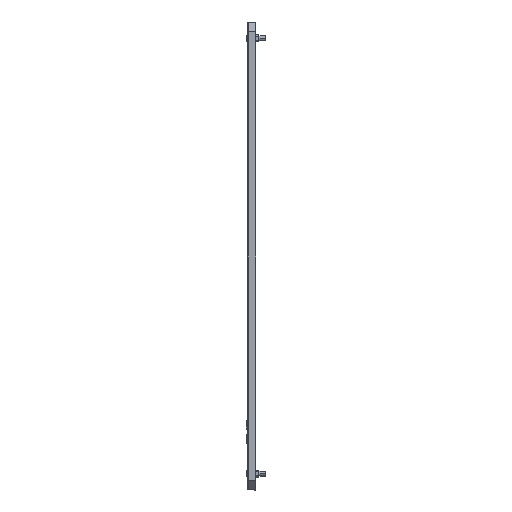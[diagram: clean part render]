
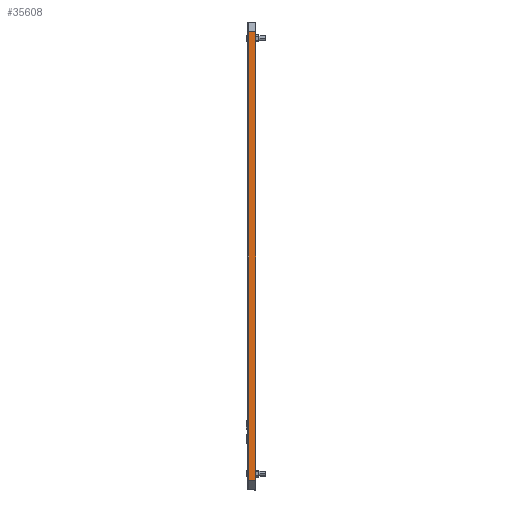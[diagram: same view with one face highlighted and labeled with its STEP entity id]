
A CAD part, left-side view. The second image highlights one B-rep face of the part: STEP entity #35608.
In plain terms, the highlighted planar face has unit normal (-1, 0, 0).
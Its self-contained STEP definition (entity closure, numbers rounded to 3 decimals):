
#3227 = VERTEX_POINT ( 'NONE', #29887 ) ;
#3229 = VERTEX_POINT ( 'NONE', #29889 ) ;
#3232 = VERTEX_POINT ( 'NONE', #29892 ) ;
#3234 = VERTEX_POINT ( 'NONE', #29894 ) ;
#5572 = EDGE_LOOP ( 'NONE', ( #30499, #30500, #30498, #30502 ) ) ;
#21248 = PLANE ( 'NONE',  #40817 ) ;
#21249 = CARTESIAN_POINT ( 'NONE',  ( -300., -18., 480. ) ) ;
#21250 = DIRECTION ( 'NONE',  ( 1., 0., 0. ) ) ;
#21251 = DIRECTION ( 'NONE',  ( 0., 1., 0. ) ) ;
#22670 = VECTOR ( 'NONE', #26635, 1000. ) ;
#22678 = VECTOR ( 'NONE', #26644, 1000. ) ;
#22817 = VECTOR ( 'NONE', #26623, 1000. ) ;
#22865 = VECTOR ( 'NONE', #26647, 1000. ) ;
#26621 = LINE ( 'NONE', #26622, #22817 ) ;
#26622 = CARTESIAN_POINT ( 'NONE',  ( -300., -2.4, 480. ) ) ;
#26623 = DIRECTION ( 'NONE',  ( 0., 0., 1. ) ) ;
#26633 = LINE ( 'NONE', #26634, #22670 ) ;
#26634 = CARTESIAN_POINT ( 'NONE',  ( -300., -18., 480. ) ) ;
#26635 = DIRECTION ( 'NONE',  ( 0., 0., -1. ) ) ;
#26642 = LINE ( 'NONE', #26643, #22678 ) ;
#26643 = CARTESIAN_POINT ( 'NONE',  ( -300., -1.2, 479.395 ) ) ;
#26644 = DIRECTION ( 'NONE',  ( 0., -1., 0. ) ) ;
#26645 = LINE ( 'NONE', #26646, #22865 ) ;
#26646 = CARTESIAN_POINT ( 'NONE',  ( -300., -18., -479.395 ) ) ;
#26647 = DIRECTION ( 'NONE',  ( 0., -1., 0. ) ) ;
#29887 = CARTESIAN_POINT ( 'NONE',  ( -300., -2.4, -479.395 ) ) ;
#29889 = CARTESIAN_POINT ( 'NONE',  ( -300., -2.4, 479.395 ) ) ;
#29892 = CARTESIAN_POINT ( 'NONE',  ( -300., -18., -479.395 ) ) ;
#29894 = CARTESIAN_POINT ( 'NONE',  ( -300., -18., 479.395 ) ) ;
#30498 = ORIENTED_EDGE ( 'NONE', *, *, #31479, .F. ) ;
#30499 = ORIENTED_EDGE ( 'NONE', *, *, #31470, .F. ) ;
#30500 = ORIENTED_EDGE ( 'NONE', *, *, #31489, .T. ) ;
#30502 = ORIENTED_EDGE ( 'NONE', *, *, #31486, .F. ) ;
#31470 = EDGE_CURVE ( 'NONE', #3227, #3229, #26621, .T. ) ;
#31479 = EDGE_CURVE ( 'NONE', #3234, #3232, #26633, .T. ) ;
#31486 = EDGE_CURVE ( 'NONE', #3229, #3234, #26642, .T. ) ;
#31489 = EDGE_CURVE ( 'NONE', #3227, #3232, #26645, .T. ) ;
#35608 = ADVANCED_FACE ( 'NONE', ( #40869 ), #21248, .F. ) ;
#40817 = AXIS2_PLACEMENT_3D ( 'NONE', #21249, #21250, #21251 ) ;
#40869 = FACE_OUTER_BOUND ( 'NONE', #5572, .T. ) ;
